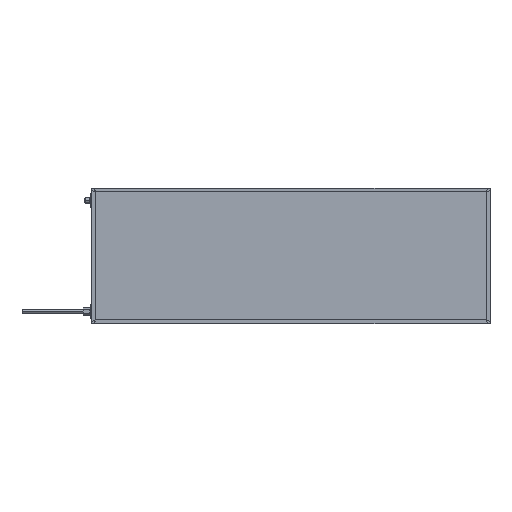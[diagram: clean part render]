
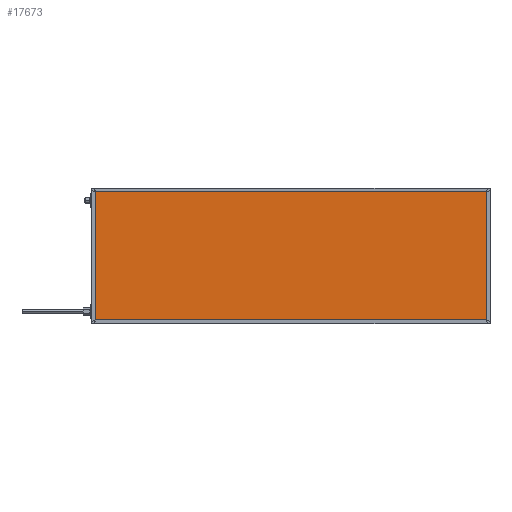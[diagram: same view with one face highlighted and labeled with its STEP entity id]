
A CAD part, top view. The second image highlights one B-rep face of the part: STEP entity #17673.
In plain terms, the highlighted planar face has unit normal (0, 0, 1).
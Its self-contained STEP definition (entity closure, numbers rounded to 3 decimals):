
#101 = VECTOR ( 'NONE', #11658, 1000. ) ;
#362 = VERTEX_POINT ( 'NONE', #2134 ) ;
#387 = VERTEX_POINT ( 'NONE', #10716 ) ;
#1107 = LINE ( 'NONE', #10873, #10520 ) ;
#2134 = CARTESIAN_POINT ( 'NONE',  ( 896., 296., 41.85 ) ) ;
#2983 = EDGE_CURVE ( 'NONE', #362, #13708, #4360, .T. ) ;
#4360 = LINE ( 'NONE', #17967, #8319 ) ;
#4929 = CARTESIAN_POINT ( 'NONE',  ( 4., 0., 41.85 ) ) ;
#4997 = DIRECTION ( 'NONE',  ( -1., 0., 0. ) ) ;
#5684 = CARTESIAN_POINT ( 'NONE',  ( 896., 4., 41.85 ) ) ;
#5704 = ORIENTED_EDGE ( 'NONE', *, *, #14722, .T. ) ;
#5734 = CARTESIAN_POINT ( 'NONE',  ( 4., 296., 41.85 ) ) ;
#5900 = CARTESIAN_POINT ( 'NONE',  ( 0., 4., 41.85 ) ) ;
#7560 = FACE_OUTER_BOUND ( 'NONE', #15581, .T. ) ;
#8319 = VECTOR ( 'NONE', #16939, 1000. ) ;
#8928 = DIRECTION ( 'NONE',  ( 0., 0., -1. ) ) ;
#9459 = VERTEX_POINT ( 'NONE', #5684 ) ;
#9467 = AXIS2_PLACEMENT_3D ( 'NONE', #17496, #8928, #4997 ) ;
#9619 = EDGE_CURVE ( 'NONE', #9459, #362, #1107, .T. ) ;
#10319 = DIRECTION ( 'NONE',  ( 0., -1., 0. ) ) ;
#10520 = VECTOR ( 'NONE', #16074, 1000. ) ;
#10634 = VECTOR ( 'NONE', #10319, 1000. ) ;
#10716 = CARTESIAN_POINT ( 'NONE',  ( 4., 4., 41.85 ) ) ;
#10873 = CARTESIAN_POINT ( 'NONE',  ( 896., 0., 41.85 ) ) ;
#11658 = DIRECTION ( 'NONE',  ( 1., 0., 0. ) ) ;
#11683 = LINE ( 'NONE', #4929, #10634 ) ;
#12548 = ORIENTED_EDGE ( 'NONE', *, *, #2983, .T. ) ;
#12930 = LINE ( 'NONE', #5900, #101 ) ;
#13708 = VERTEX_POINT ( 'NONE', #5734 ) ;
#14722 = EDGE_CURVE ( 'NONE', #387, #9459, #12930, .T. ) ;
#14761 = PLANE ( 'NONE',  #9467 ) ;
#15581 = EDGE_LOOP ( 'NONE', ( #17748, #12548, #17963, #5704 ) ) ;
#16074 = DIRECTION ( 'NONE',  ( 0., 1., 0. ) ) ;
#16801 = EDGE_CURVE ( 'NONE', #13708, #387, #11683, .T. ) ;
#16939 = DIRECTION ( 'NONE',  ( -1., 0., 0. ) ) ;
#17496 = CARTESIAN_POINT ( 'NONE',  ( 0., 0., 41.85 ) ) ;
#17673 = ADVANCED_FACE ( 'NONE', ( #7560 ), #14761, .F. ) ;
#17748 = ORIENTED_EDGE ( 'NONE', *, *, #9619, .T. ) ;
#17963 = ORIENTED_EDGE ( 'NONE', *, *, #16801, .T. ) ;
#17967 = CARTESIAN_POINT ( 'NONE',  ( 0., 296., 41.85 ) ) ;
